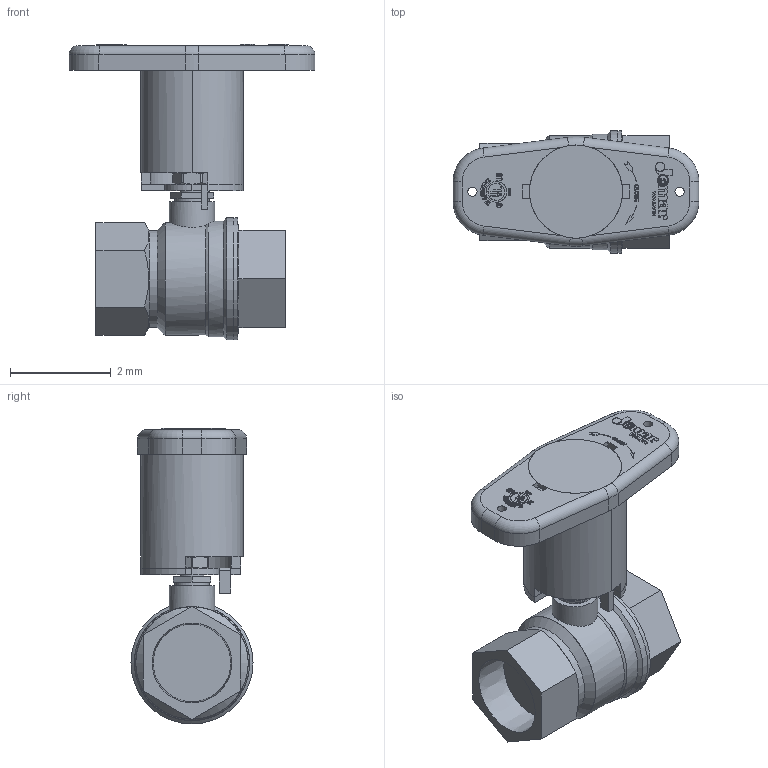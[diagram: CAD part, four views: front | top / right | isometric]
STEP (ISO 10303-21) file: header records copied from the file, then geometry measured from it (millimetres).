
FILE_DESCRIPTION(('Open CASCADE Model'),'2;1');
FILE_NAME('Open CASCADE Shape Model','2021-10-12T08:20:09',('Author'),( 'Open CASCADE'),'Open CASCADE STEP processor 7.3','Open CASCADE 7.3' ,'Unknown');
FILE_SCHEMA(('AUTOMOTIVE_DESIGN { 1 0 10303 214 1 1 1 1 }'));
Length unit declared in the file: millimetre
Products named in the file (125): Open CASCADE STEP translator 7.3 1; Open CASCADE STEP translator 7.3 1.1; Open CASCADE STEP translator 7.3 1.2; Open CASCADE STEP translator 7.3 1.2.1; Open CASCADE STEP translator 7.3 1.2.2; Open CASCADE STEP translator 7.3 1.2.3; Open CASCADE STEP translator 7.3 1.2.4; Open CASCADE STEP translator 7.3 1.2.5; Open CASCADE STEP translator 7.3 1.2.6; Open CASCADE STEP translator 7.3 1.2.7; Open CASCADE STEP translator 7.3 1.2.8; Open CASCADE STEP translator 7.3 1.2.9; Open CASCADE STEP translator 7.3 1.2.10; Open CASCADE STEP translator 7.3 1.2.11; Open CASCADE STEP translator 7.3 1.2.12; Open CASCADE STEP translator 7.3 1.2.13; Open CASCADE STEP translator 7.3 1.2.14; Open CASCADE STEP translator 7.3 1.2.15; Open CASCADE STEP translator 7.3 1.2.16; Open CASCADE STEP translator 7.3 1.2.17; Open CASCADE STEP translator 7.3 1.2.18; Open CASCADE STEP translator 7.3 1.2.19; Open CASCADE STEP translator 7.3 1.2.20; Open CASCADE STEP translator 7.3 1.2.21; Open CASCADE STEP translator 7.3 1.2.22; Open CASCADE STEP translator 7.3 1.2.23; Open CASCADE STEP translator 7.3 1.2.24; Open CASCADE STEP translator 7.3 1.2.25; Open CASCADE STEP translator 7.3 1.2.26; Open CASCADE STEP translator 7.3 1.2.27; Open CASCADE STEP translator 7.3 1.2.28; Open CASCADE STEP translator 7.3 1.2.29; Open CASCADE STEP translator 7.3 1.2.30; Open CASCADE STEP translator 7.3 1.2.31; Open CASCADE STEP translator 7.3 1.2.32; Open CASCADE STEP translator 7.3 1.2.33; Open CASCADE STEP translator 7.3 1.2.34; Open CASCADE STEP translator 7.3 1.2.35; Open CASCADE STEP translator 7.3 1.2.36; Open CASCADE STEP translator 7.3 1.2.37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
Assembly tree (124 placements, depth 3):
  Open CASCADE STEP translator 7.3 1
    Open CASCADE STEP translator 7.3 1.1
    Open CASCADE STEP translator 7.3 1.2
      Open CASCADE STEP translator 7.3 1.2.1
      Open CASCADE STEP translator 7.3 1.2.2
      Open CASCADE STEP translator 7.3 1.2.3
      Open CASCADE STEP translator 7.3 1.2.4
      Open CASCADE STEP translator 7.3 1.2.5
      Open CASCADE STEP translator 7.3 1.2.6
      Open CASCADE STEP translator 7.3 1.2.7
      Open CASCADE STEP translator 7.3 1.2.8
      Open CASCADE STEP translator 7.3 1.2.9
      Open CASCADE STEP translator 7.3 1.2.10
      Open CASCADE STEP translator 7.3 1.2.11
      Open CASCADE STEP translator 7.3 1.2.12
      Open CASCADE STEP translator 7.3 1.2.13
      Open CASCADE STEP translator 7.3 1.2.14
      Open CASCADE STEP translator 7.3 1.2.15
      Open CASCADE STEP translator 7.3 1.2.16
      Open CASCADE STEP translator 7.3 1.2.17
      Open CASCADE STEP translator 7.3 1.2.18
      Open CASCADE STEP translator 7.3 1.2.19
      Open CASCADE STEP translator 7.3 1.2.20
      Open CASCADE STEP translator 7.3 1.2.21
      Open CASCADE STEP translator 7.3 1.2.22
      Open CASCADE STEP translator 7.3 1.2.23
      Open CASCADE STEP translator 7.3 1.2.24
      Open CASCADE STEP translator 7.3 1.2.25
      Open CASCADE STEP translator 7.3 1.2.26
      Open CASCADE STEP translator 7.3 1.2.27
      Open CASCADE STEP translator 7.3 1.2.28
      Open CASCADE STEP translator 7.3 1.2.29
      Open CASCADE STEP translator 7.3 1.2.30
      Open CASCADE STEP translator 7.3 1.2.31
      Open CASCADE STEP translator 7.3 1.2.32
      Open CASCADE STEP translator 7.3 1.2.33
      Open CASCADE STEP translator 7.3 1.2.34
      Open CASCADE STEP translator 7.3 1.2.35
      Open CASCADE STEP translator 7.3 1.2.36
      Open CASCADE STEP translator 7.3 1.2.37
      Open CASCADE STEP translator 7.3 1.2.38
      Open CASCADE STEP translator 7.3 1.2.39
      Open CASCADE STEP translator 7.3 1.2.40
      Open CASCADE STEP translator 7.3 1.2.41
      Open CASCADE STEP translator 7.3 1.2.42
      Open CASCADE STEP translator 7.3 1.2.43
    Open CASCADE STEP translator 7.3 1.3
    Open CASCADE STEP translator 7.3 1.4
    Open CASCADE STEP translator 7.3 1.5
    Open CASCADE STEP translator 7.3 1.6
    Open CASCADE STEP translator 7.3 1.7
    Open CASCADE STEP translator 7.3 1.8
    Open CASCADE STEP translator 7.3 1.9
    Open CASCADE STEP translator 7.3 1.10
    Open CASCADE STEP translator 7.3 1.11
    Open CASCADE STEP translator 7.3 1.12
    Open CASCADE STEP translator 7.3 1.13
    Open CASCADE STEP translator 7.3 1.14
    Open CASCADE STEP translator 7.3 1.15
    Open CASCADE STEP translator 7.3 1.16
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Bounding box: 4.88 x 2.42 x 5.87 mm (x, y, z)
Volume: 5.4 mm3; surface area: 124.2 mm2
Topology: 45 solids, 123 shells, 2679 faces, 7838 edges, 5319 vertices
Faces by surface type: plane 2531, cylinder 117, cone 19, torus 6, extrusion 6
Full cylindrical faces by diameter (mm): 0.021 x1, 0.025 x1, 0.064 x1, 0.09 x1, 0.18 x1, 0.181 x2, 0.435 x1, 0.495 x1, 0.5 x1, 0.688 x1, 0.9 x1, 1.607 x1, 1.676 x2, 1.787 x1, 1.849 x1, 1.92 x1, 2.233 x1, 2.29 x1, 2.422 x2
Entity records: 193117 total; most frequent: CARTESIAN_POINT 35963, DIRECTION 28689, VECTOR 22352, LINE 22346, ORIENTED_EDGE 15353, PCURVE 15353, DEFINITIONAL_REPRESENTATION 15353, EDGE_CURVE 7838
